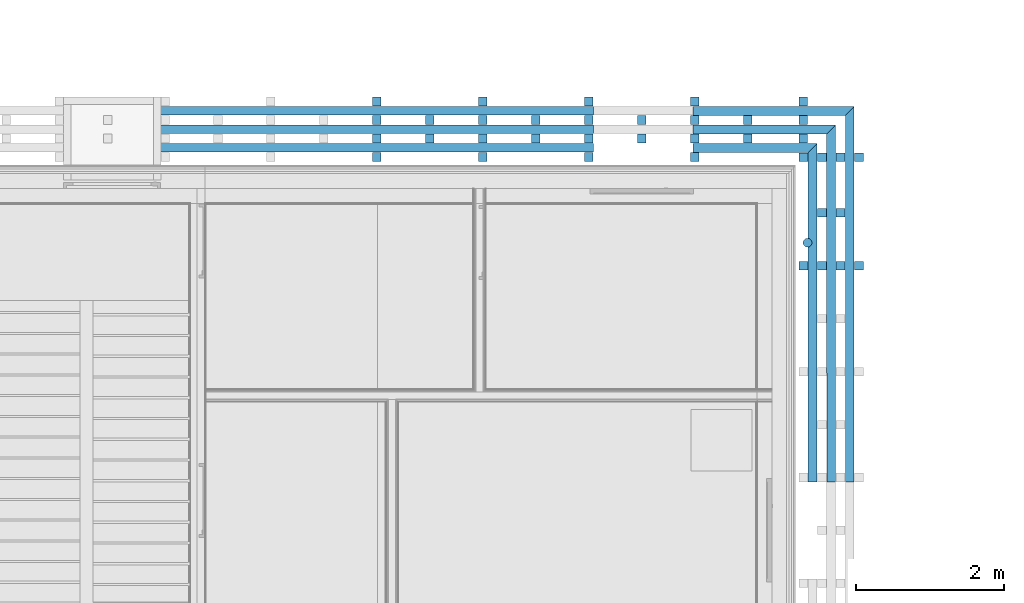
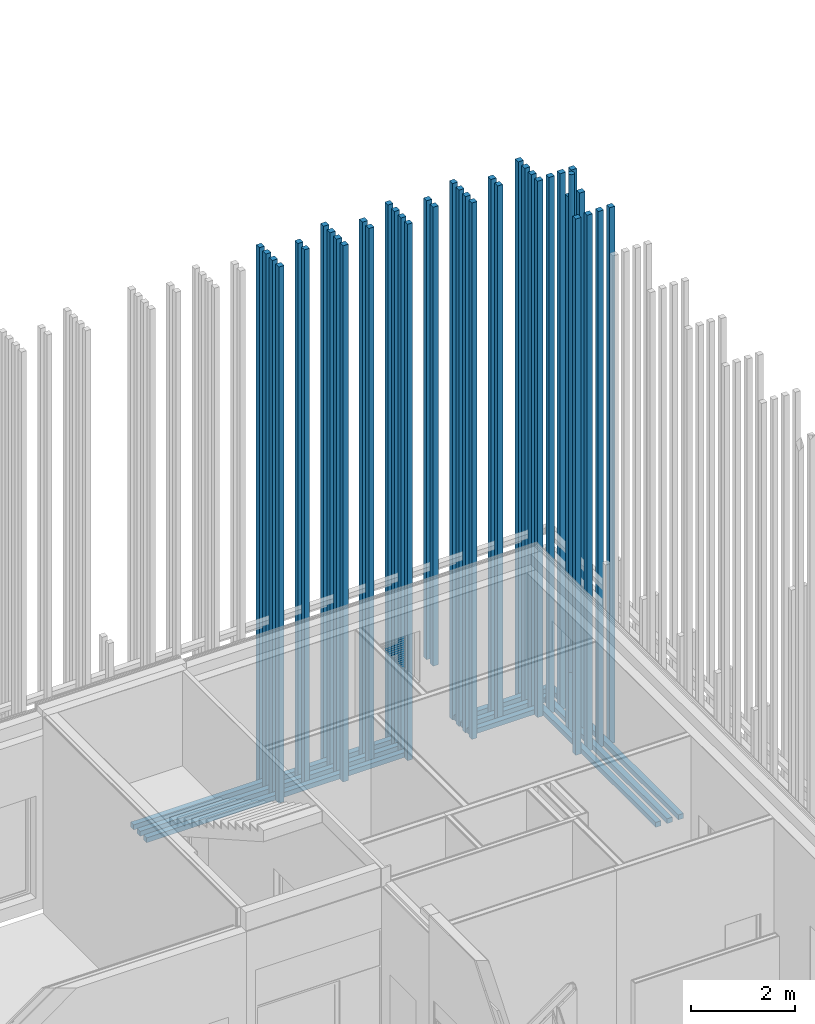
# One storey, part 195 of 260: 16 discrete accessories.
"""IFC2X3 building model written with IfcOpenShell, lengths in millimetres."""

from ifc_helpers import new_model, entity, si_unit, converted_unit, derived_unit, money_unit, direction, frame, origin_with_axes, place, context, subcontext, project, spatial, faceted_brep, material, material_list, type_object, element, save


model = new_model("IFC2X3")

# Units and contexts
model_context = context("Model", 3, precision=0.01, world=origin_with_axes(), true_north=direction((0.0, 1.0)))
body_context = subcontext(model_context, "Body", "Model", "MODEL_VIEW")
ifc_project = project(units=[si_unit("LENGTHUNIT", "METRE", prefix="MILLI"), si_unit("AREAUNIT", "SQUARE_METRE"), si_unit("VOLUMEUNIT", "CUBIC_METRE"), converted_unit("PLANEANGLEUNIT", "DEGREE", entity("IfcPlaneAngleMeasure", 0.0174532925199), si_unit("PLANEANGLEUNIT", "RADIAN"), dimensions=[0, 0, 0, 0, 0, 0, 0]), money_unit("EUR"), converted_unit("TIMEUNIT", "Year", entity("IfcTimeMeasure", 31556926.0), si_unit("TIMEUNIT", "SECOND"), dimensions=[0, 0, 1, 0, 0, 0, 0]), si_unit("MASSUNIT", "GRAM", prefix="KILO"), si_unit("THERMODYNAMICTEMPERATUREUNIT", "DEGREE_CELSIUS"), si_unit("LUMINOUSINTENSITYUNIT", "LUMEN"), si_unit("ENERGYUNIT", "JOULE", prefix="MEGA"), derived_unit("THERMALCONDUCTANCEUNIT", [(si_unit("POWERUNIT", "WATT"), 1), (si_unit("LENGTHUNIT", "METRE"), -1), (si_unit("THERMODYNAMICTEMPERATUREUNIT", "KELVIN"), -1)]), derived_unit("SPECIFICHEATCAPACITYUNIT", [(si_unit("ENERGYUNIT", "JOULE"), 1), (si_unit("MASSUNIT", "GRAM", prefix="KILO"), -1), (si_unit("THERMODYNAMICTEMPERATUREUNIT", "KELVIN"), -1)]), derived_unit("MASSDENSITYUNIT", [(si_unit("MASSUNIT", "GRAM", prefix="KILO"), 1), (si_unit("VOLUMEUNIT", "CUBIC_METRE"), -1)])], contexts=[model_context])

# Site, building, storey
site_placement = place(None, origin_with_axes())
site = spatial("IfcSite", under=ifc_project, at=site_placement, Name="Kolde pst 67a", CompositionType="ELEMENT")
building_placement = place(site_placement, origin_with_axes())
building = spatial("IfcBuilding", under=site, at=building_placement, Name="Riigigümnaasium", CompositionType="ELEMENT")
storey_placement = place(building_placement, origin_with_axes())
storey = spatial("IfcBuildingStorey", under=building, at=storey_placement, Name="1. korrus", CompositionType="ELEMENT", Elevation=0.0)

# Discrete accessories
ifc_material_1 = material(Name="_VÄLISVIIMISTLUS - sõrmjätkatud puitprussid 120x115mm, liitekohad vähemärgatavad, Platowood sõrmjätkatud kuusk või samaväärne; eeltöödeldud tuletõkkevõõbaga, tuletundlikkus B-s1, d0, Woodsafe Exterior WFX™ või samaväärne; kinnitused vastavalt EK osale")
ifc_material_list_1 = material_list([ifc_material_1, ifc_material_1, ifc_material_1, ifc_material_1])
discrete_accessory_type_1 = type_object("IfcDiscreteAccessoryType", Name="120 4-ne vertikaalne 870 x 115")
for number, where, z_axis, x_axis in (
    (1, (60792.0156759, 59387.4998417, 280.0), (0.0, 0.0, 1.0), (-0.999999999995, -3.13999128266e-06, 0.0)),
    (2, (60791.9939511, 60852.5000322, 280.0), (0.0, 0.0, 1.0), (-0.999999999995, -3.13999128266e-06, 0.0)),
    (3, (59412.494314, 60792.0000352, 280.0), (0.0, 0.0, 1.0), (3.13999128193e-06, -0.999999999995, 0.0)),
    (4, (57982.494314, 60792.0003651, 280.0), (0.0, 0.0, 1.0), (3.13999128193e-06, -0.999999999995, 0.0)),
    (5, (56552.494314, 60792.0003417, 280.0), (0.0, 0.0, 1.0), (3.13999128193e-06, -0.999999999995, 0.0)),
    (6, (55122.494314, 60792.0003183, 280.0), (0.0, 0.0, 1.0), (3.13999128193e-06, -0.999999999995, 0.0)),
):
    element("IfcDiscreteAccessory", number, at=place(storey_placement, frame(where, z_axis=z_axis, x_axis=x_axis)), inside=storey, type_object=discrete_accessory_type_1, material=ifc_material_list_1, Name="Päikesevarjestus", context=body_context, shape_type="Brep", body=[
        faceted_brep([(-133.0, -70.0, 0.0), (-13.0, -70.0, 0.0), (-13.0, -70.0, 12600.0), (-133.0, -70.0, 12600.0), (-133.0, 45.0, 0.0), (-13.0, 45.0, 0.0), (-13.0, 45.0, 12600.0), (-133.0, 45.0, 12600.0)], [[[0, 1, 2, 3]], [[0, 4, 5, 1]], [[1, 5, 6, 2]], [[3, 2, 6, 7]], [[4, 0, 3, 7]], [[5, 4, 7, 6]]]),
        faceted_brep([(-383.0, -70.0, 0.0), (-263.0, -70.0, 0.0), (-263.0, -70.0, 12600.0), (-383.0, -70.0, 12600.0), (-383.0, 45.0, 0.0), (-263.0, 45.0, 0.0), (-263.0, 45.0, 12600.0), (-383.0, 45.0, 12600.0)], [[[0, 1, 2, 3]], [[0, 4, 5, 1]], [[1, 5, 6, 2]], [[3, 2, 6, 7]], [[4, 0, 3, 7]], [[5, 4, 7, 6]]]),
        faceted_brep([(-633.0, -70.0, 0.0), (-513.0, -70.0, 0.0), (-513.0, -70.0, 12600.0), (-633.0, -70.0, 12600.0), (-633.0, 45.0, 0.0), (-513.0, 45.0, 0.0), (-513.0, 45.0, 12600.0), (-633.0, 45.0, 12600.0)], [[[0, 1, 2, 3]], [[0, 4, 5, 1]], [[1, 5, 6, 2]], [[3, 2, 6, 7]], [[4, 0, 3, 7]], [[5, 4, 7, 6]]]),
        faceted_brep([(-883.0, -70.0, 0.0), (-763.0, -70.0, 0.0), (-763.0, -70.0, 12600.0), (-883.0, -70.0, 12600.0), (-883.0, 45.0, 0.0), (-763.0, 45.0, 0.0), (-763.0, 45.0, 12600.0), (-883.0, 45.0, 12600.0)], [[[0, 1, 2, 3]], [[0, 4, 5, 1]], [[1, 5, 6, 2]], [[3, 2, 6, 7]], [[4, 0, 3, 7]], [[5, 4, 7, 6]]]),
    ])
ifc_material_list_2 = material_list([ifc_material_1, ifc_material_1, ifc_material_1])
discrete_accessory_type_2 = type_object("IfcDiscreteAccessoryType", Name="120 4-ne vertikaalne -1 nurgaribi 620 x 115")
discrete_accessory_1_placement = place(storey_placement, frame((60877.4957838, 60792.0003007, 280.0), z_axis=(0.0, 0.0, 1.0), x_axis=(3.13999128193e-06, -0.999999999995, 0.0)))
element("IfcDiscreteAccessory", 7, at=discrete_accessory_1_placement, inside=storey, type_object=discrete_accessory_type_2, material=ifc_material_list_2, Name="Päikesevarjestus", context=body_context, shape_type="Brep", body=[
    faceted_brep([(-383.0, -70.0, 0.0), (-263.0, -70.0, 0.0), (-263.0, -70.0, 12600.0), (-383.0, -70.0, 12600.0), (-383.0, 45.0, 0.0), (-263.0, 45.0, 0.0), (-263.0, 45.0, 12600.0), (-383.0, 45.0, 12600.0)], [[[0, 1, 2, 3]], [[0, 4, 5, 1]], [[1, 5, 6, 2]], [[3, 2, 6, 7]], [[4, 0, 3, 7]], [[5, 4, 7, 6]]]),
    faceted_brep([(-633.0, -70.0, 0.0), (-513.0, -70.0, 0.0), (-513.0, -70.0, 12600.0), (-633.0, -70.0, 12600.0), (-633.0, 45.0, 0.0), (-513.0, 45.0, 0.0), (-513.0, 45.0, 12600.0), (-633.0, 45.0, 12600.0)], [[[0, 1, 2, 3]], [[0, 4, 5, 1]], [[1, 5, 6, 2]], [[3, 2, 6, 7]], [[4, 0, 3, 7]], [[5, 4, 7, 6]]]),
    faceted_brep([(-883.0, -70.0, 0.0), (-763.0, -70.0, 0.0), (-763.0, -70.0, 12600.0), (-883.0, -70.0, 12600.0), (-883.0, 45.0, 0.0), (-763.0, 45.0, 0.0), (-763.0, 45.0, 12600.0), (-883.0, 45.0, 12600.0)], [[[0, 1, 2, 3]], [[0, 4, 5, 1]], [[1, 5, 6, 2]], [[3, 2, 6, 7]], [[4, 0, 3, 7]], [[5, 4, 7, 6]]]),
])
discrete_accessory_type_3 = type_object("IfcDiscreteAccessoryType", Name="120 1+paiksekaitse 3 tk  620 x 115")
discrete_accessory_2_placement = place(storey_placement, frame((60804.9952182, 60803.0000809, 352.5), z_axis=(0.0, 0.0, 1.0), x_axis=(-4.8400640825e-07, 1.0, 0.0)))
element("IfcDiscreteAccessory", 8, at=discrete_accessory_2_placement, inside=storey, type_object=discrete_accessory_type_3, material=ifc_material_list_2, Name="Päikesevarjestus", context=body_context, shape_type="Brep", body=[
    faceted_brep([(625.0, 1430.000967, 45.0), (625.0, -624.990364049, 45.0), (745.0, -744.988513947, 45.0), (745.0, 1430.000967, 45.0), (625.0, 1430.000967, -70.0), (625.0, -624.990364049, -70.0), (745.0, -744.988513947, -70.0), (745.0, 1430.000967, -70.0)], [[[0, 1, 2, 3]], [[4, 5, 1, 0]], [[5, 6, 2, 1]], [[3, 2, 6, 7]], [[4, 0, 3, 7]], [[7, 6, 5, 4]]]),
    faceted_brep([(375.0, 1430.000967, 45.0), (375.0, -374.99421843, 45.0), (495.0, -494.992368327, 45.0), (495.0, 1430.000967, 45.0), (375.0, 1430.000967, -70.0), (375.0, -374.99421843, -70.0), (495.0, -494.992368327, -70.0), (495.0, 1430.000967, -70.0)], [[[0, 1, 2, 3]], [[4, 5, 1, 0]], [[5, 6, 2, 1]], [[3, 2, 6, 7]], [[4, 0, 3, 7]], [[7, 6, 5, 4]]]),
    faceted_brep([(125.0, 1430.000967, 45.0), (125.0, -124.99807281, 45.0), (245.0, -244.996222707, 45.0), (245.0, 1430.000967, 45.0), (125.0, 1430.000967, -70.0), (125.0, -124.99807281, -70.0), (245.0, -244.996222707, -70.0), (245.0, 1430.000967, -70.0)], [[[0, 1, 2, 3]], [[4, 5, 1, 0]], [[5, 6, 2, 1]], [[3, 2, 6, 7]], [[4, 0, 3, 7]], [[7, 6, 5, 4]]]),
])
discrete_accessory_3_placement = place(storey_placement, frame((58029.9942732, 60805.0005142, 352.5), z_axis=(0.0, 0.0, 1.0), x_axis=(-1.10168510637e-08, 1.0, 0.0)))
element("IfcDiscreteAccessory", 9, at=discrete_accessory_3_placement, inside=storey, type_object=discrete_accessory_type_3, material=ifc_material_list_2, Name="Päikesevarjestus", context=body_context, shape_type="Brep", body=[
    faceted_brep([(625.0, 5839.99660881, 45.0), (625.0, 0.0, 45.0), (745.0, 0.0, 45.0), (745.0, 5839.99660881, 45.0), (625.0, 5839.99660881, -70.0), (625.0, 0.0, -70.0), (745.0, 0.0, -70.0), (745.0, 5839.99660881, -70.0)], [[[0, 1, 2, 3]], [[4, 5, 1, 0]], [[5, 6, 2, 1]], [[3, 2, 6, 7]], [[4, 0, 3, 7]], [[7, 6, 5, 4]]]),
    faceted_brep([(375.0, 5839.99660881, 45.0), (375.0, 0.0, 45.0), (495.0, 0.0, 45.0), (495.0, 5839.99660881, 45.0), (375.0, 5839.99660881, -70.0), (375.0, 0.0, -70.0), (495.0, 0.0, -70.0), (495.0, 5839.99660881, -70.0)], [[[0, 1, 2, 3]], [[4, 5, 1, 0]], [[5, 6, 2, 1]], [[3, 2, 6, 7]], [[4, 0, 3, 7]], [[7, 6, 5, 4]]]),
    faceted_brep([(125.0, 5839.99660881, 45.0), (125.0, 0.0, 45.0), (245.0, 0.0, 45.0), (245.0, 5839.99660881, 45.0), (125.0, 5839.99660881, -70.0), (125.0, 0.0, -70.0), (245.0, 0.0, -70.0), (245.0, 5839.99660881, -70.0)], [[[0, 1, 2, 3]], [[4, 5, 1, 0]], [[5, 6, 2, 1]], [[3, 2, 6, 7]], [[4, 0, 3, 7]], [[7, 6, 5, 4]]]),
])
discrete_accessory_4_placement = place(storey_placement, frame((60805.063961, 56479.9998825, 352.5), z_axis=(0.0, 0.0, 1.0), x_axis=(0.999999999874, 1.59016463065e-05, 0.0)))
element("IfcDiscreteAccessory", 10, at=discrete_accessory_4_placement, inside=storey, type_object=discrete_accessory_type_3, material=ifc_material_list_2, Name="Päikesevarjestus", context=body_context, shape_type="Brep", body=[
    faceted_brep([(625.0, 4947.99056305, 45.0), (625.0, 0.0, 45.0), (745.0, 0.0, 45.0), (745.0, 5067.98871294, 45.0), (625.0, 4947.99056305, -70.0), (625.0, 0.0, -70.0), (745.0, 0.0, -70.0), (745.0, 5067.98871294, -70.0)], [[[0, 1, 2, 3]], [[4, 5, 1, 0]], [[5, 6, 2, 1]], [[3, 2, 6, 7]], [[4, 0, 3, 7]], [[7, 6, 5, 4]]]),
    faceted_brep([(375.0, 4697.99441743, 45.0), (375.0, 0.0, 45.0), (495.0, 0.0, 45.0), (495.0, 4817.99256732, 45.0), (375.0, 4697.99441743, -70.0), (375.0, 0.0, -70.0), (495.0, 0.0, -70.0), (495.0, 4817.99256732, -70.0)], [[[0, 1, 2, 3]], [[4, 5, 1, 0]], [[5, 6, 2, 1]], [[3, 2, 6, 7]], [[4, 0, 3, 7]], [[7, 6, 5, 4]]]),
    faceted_brep([(125.0, 4447.99827181, 45.0), (125.0, 0.0, 45.0), (245.0, 0.0, 45.0), (245.0, 4567.9964217, 45.0), (125.0, 4447.99827181, -70.0), (125.0, 0.0, -70.0), (245.0, 0.0, -70.0), (245.0, 4567.9964217, -70.0)], [[[0, 1, 2, 3]], [[4, 5, 1, 0]], [[5, 6, 2, 1]], [[3, 2, 6, 7]], [[4, 0, 3, 7]], [[7, 6, 5, 4]]]),
])
ifc_material_list_3 = material_list([ifc_material_1, ifc_material_1])
discrete_accessory_type_4 = type_object("IfcDiscreteAccessoryType", Name="1+paiksekaitse 3 370 x 115")
for number, where, z_axis, x_axis in (
    (11, (61772.0158251, 60175.0017885, 280.0), (0.0, 0.0, 1.0), (-1.0, 0.0, 0.0)),
    (12, (60054.9923672, 61772.0001843, 280.0), (0.0, 0.0, 1.0), (0.0, -1.0, 0.0)),
):
    element("IfcDiscreteAccessory", number, at=place(storey_placement, frame(where, z_axis=z_axis, x_axis=x_axis)), inside=storey, type_object=discrete_accessory_type_4, material=ifc_material_list_3, Name="Päikesevarjestus", context=body_context, shape_type="Brep", body=[
        faceted_brep([(467.0, 117.5, 0.0), (347.0, 117.5, 0.0), (347.0, 117.5, 12600.0), (467.0, 117.5, 12600.0), (467.0, 2.5, 0.0), (347.0, 2.5, 0.0), (347.0, 2.5, 12600.0), (467.0, 2.5, 12600.0)], [[[0, 1, 2, 3]], [[0, 4, 5, 1]], [[1, 5, 6, 2]], [[3, 2, 6, 7]], [[4, 0, 3, 7]], [[5, 4, 7, 6]]]),
        faceted_brep([(717.0, 117.5, 0.0), (597.0, 117.5, 0.0), (597.0, 117.5, 12600.0), (717.0, 117.5, 12600.0), (717.0, 2.5, 0.0), (597.0, 2.5, 0.0), (597.0, 2.5, 12600.0), (717.0, 2.5, 12600.0)], [[[0, 1, 2, 3]], [[0, 4, 5, 1]], [[1, 5, 6, 2]], [[3, 2, 6, 7]], [[4, 0, 3, 7]], [[5, 4, 7, 6]]]),
    ])
discrete_accessory_5_placement = place(storey_placement, frame((58624.9923672, 61772.0001843, 2100.0), z_axis=(0.0, 0.0, 1.0), x_axis=(0.0, -1.0, 0.0)))
element("IfcDiscreteAccessory", 13, at=discrete_accessory_5_placement, inside=storey, type_object=discrete_accessory_type_4, material=ifc_material_list_3, Name="Päikesevarjestus", context=body_context, shape_type="Brep", body=[
    faceted_brep([(467.0, 117.5, 0.0), (347.0, 117.5, 0.0), (347.0, 117.5, 10780.0), (467.0, 117.5, 10780.0), (467.0, 2.5, 0.0), (347.0, 2.5, 0.0), (347.0, 2.5, 10780.0), (467.0, 2.5, 10780.0)], [[[0, 1, 2, 3]], [[0, 4, 5, 1]], [[1, 5, 6, 2]], [[3, 2, 6, 7]], [[4, 0, 3, 7]], [[5, 4, 7, 6]]]),
    faceted_brep([(717.0, 117.5, 0.0), (597.0, 117.5, 0.0), (597.0, 117.5, 10780.0), (717.0, 117.5, 10780.0), (717.0, 2.5, 0.0), (597.0, 2.5, 0.0), (597.0, 2.5, 10780.0), (717.0, 2.5, 10780.0)], [[[0, 1, 2, 3]], [[0, 4, 5, 1]], [[1, 5, 6, 2]], [[3, 2, 6, 7]], [[4, 0, 3, 7]], [[5, 4, 7, 6]]]),
])
for number, where, z_axis, x_axis in (
    (14, (57194.9923672, 61772.0001843, 280.0), (0.0, 0.0, 1.0), (0.0, -1.0, 0.0)),
    (15, (55764.9923672, 61772.0001843, 280.0), (0.0, 0.0, 1.0), (0.0, -1.0, 0.0)),
):
    element("IfcDiscreteAccessory", number, at=place(storey_placement, frame(where, z_axis=z_axis, x_axis=x_axis)), inside=storey, type_object=discrete_accessory_type_4, material=ifc_material_list_3, Name="Päikesevarjestus", context=body_context, shape_type="Brep", body=[
        faceted_brep([(467.0, 117.5, 0.0), (347.0, 117.5, 0.0), (347.0, 117.5, 12599.9999329), (467.0, 117.5, 12599.9999329), (467.0, 2.5, 0.0), (347.0, 2.5, 0.0), (347.0, 2.5, 12599.9999329), (467.0, 2.5, 12599.9999329)], [[[0, 1, 2, 3]], [[0, 4, 5, 1]], [[1, 5, 6, 2]], [[3, 2, 6, 7]], [[4, 0, 3, 7]], [[5, 4, 7, 6]]]),
        faceted_brep([(717.0, 117.5, 0.0), (597.0, 117.5, 0.0), (597.0, 117.5, 12599.9999329), (717.0, 117.5, 12599.9999329), (717.0, 2.5, 0.0), (597.0, 2.5, 0.0), (597.0, 2.5, 12599.9999329), (717.0, 2.5, 12599.9999329)], [[[0, 1, 2, 3]], [[0, 4, 5, 1]], [[1, 5, 6, 2]], [[3, 2, 6, 7]], [[4, 0, 3, 7]], [[5, 4, 7, 6]]]),
    ])
ifc_material_2 = material(Name="_METALL - teras")
discrete_accessory_type_5 = type_object("IfcDiscreteAccessoryType", Name="_METALL - teras D120")
discrete_accessory_6_placement = place(storey_placement, frame((60919.9938964, 59708.1798553, 2004.38127179), z_axis=(0.0, 0.0, 1.0), x_axis=(1.0, 0.0, 0.0)))
element("IfcDiscreteAccessory", 16, at=discrete_accessory_6_placement, inside=storey, type_object=discrete_accessory_type_5, material=ifc_material_2, Name="Metallkorsten vastavalt generaatorile, RAL 9006 alumiiniumhall", context=body_context, shape_type="Brep", body=[
    faceted_brep([(-60.0, 0.0, 11697.1743789), (-60.0, 0.0, 0.0), (-57.0633909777, -18.5410196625, 0.0), (-57.0633909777, -18.5410196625, 11697.1743789), (-57.0633909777, 18.5410196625, 11697.1743789), (-57.0633909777, 18.5410196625, 0.0), (-48.5410196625, 35.2671151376, 0.0), (-35.2671151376, 48.5410196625, 0.0), (-18.5410196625, 57.0633909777, 0.0), (0.0, 60.0, 0.0), (18.5410196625, 57.0633909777, 0.0), (35.2671151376, 48.5410196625, 0.0), (48.5410196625, 35.2671151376, 0.0), (57.0633909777, 18.5410196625, 0.0), (60.0, 0.0, 0.0), (57.0633909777, -18.5410196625, 0.0), (48.5410196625, -35.2671151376, 0.0), (35.2671151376, -48.5410196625, 0.0), (18.5410196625, -57.0633909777, 0.0), (0.0, -60.0, 0.0), (-18.5410196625, -57.0633909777, 0.0), (-35.2671151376, -48.5410196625, 0.0), (-48.5410196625, -35.2671151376, 0.0), (-48.5410196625, -35.2671151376, 11697.1743789), (-35.2671151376, -48.5410196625, 11697.1743789), (-18.5410196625, -57.0633909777, 11697.1743789), (0.0, -60.0, 11697.1743789), (18.5410196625, -57.0633909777, 11697.1743789), (35.2671151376, -48.5410196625, 11697.1743789), (48.5410196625, -35.2671151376, 11697.1743789), (57.0633909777, -18.5410196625, 11697.1743789), (60.0, 0.0, 11697.1743789), (57.0633909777, 18.5410196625, 11697.1743789), (48.5410196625, 35.2671151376, 11697.1743789), (35.2671151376, 48.5410196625, 11697.1743789), (18.5410196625, 57.0633909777, 11697.1743789), (0.0, 60.0, 11697.1743789), (-18.5410196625, 57.0633909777, 11697.1743789), (-35.2671151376, 48.5410196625, 11697.1743789), (-48.5410196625, 35.2671151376, 11697.1743789)], [[[0, 1, 2, 3]], [[4, 5, 1, 0]], [[2, 1, 5, 6, 7, 8, 9, 10, 11, 12, 13, 14, 15, 16, 17, 18, 19, 20, 21, 22]], [[3, 2, 22, 23]], [[4, 0, 3, 23, 24, 25, 26, 27, 28, 29, 30, 31, 32, 33, 34, 35, 36, 37, 38, 39]], [[39, 6, 5, 4]], [[38, 7, 6, 39]], [[37, 8, 7, 38]], [[36, 9, 8, 37]], [[35, 10, 9, 36]], [[34, 11, 10, 35]], [[33, 12, 11, 34]], [[32, 13, 12, 33]], [[31, 14, 13, 32]], [[30, 15, 14, 31]], [[29, 16, 15, 30]], [[28, 17, 16, 29]], [[27, 18, 17, 28]], [[26, 19, 18, 27]], [[25, 20, 19, 26]], [[24, 21, 20, 25]], [[23, 22, 21, 24]]]),
])

save(model, "model.ifc")
